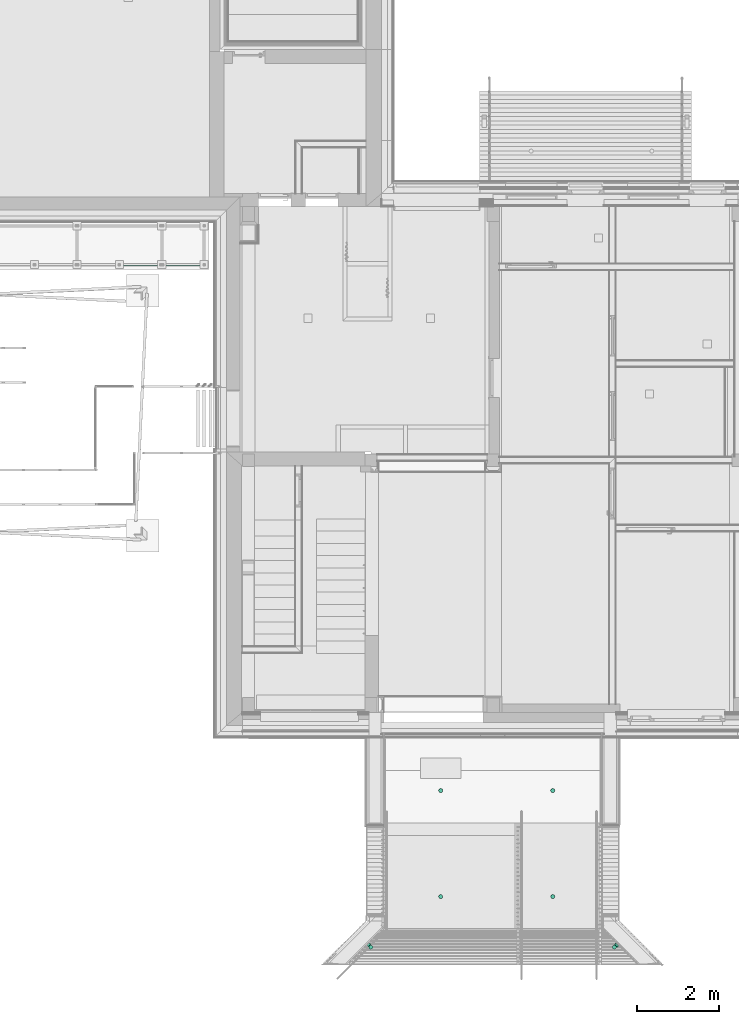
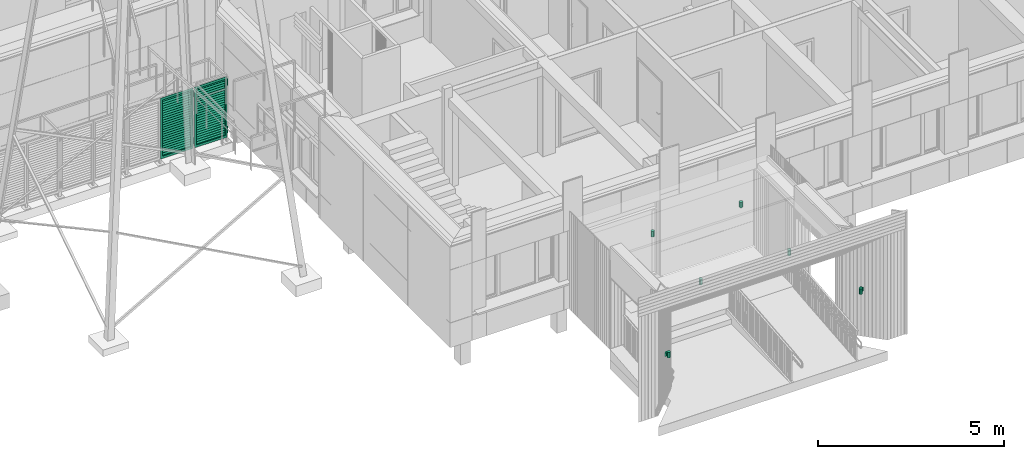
# One storey, part 179 of 418: 8 flow terminals, 2 distribution flow elements.
"""IFC2X3 building model written with IfcOpenShell, lengths in millimetres."""

from ifc_helpers import new_model, entity, si_unit, converted_unit, derived_unit, money_unit, point, direction, frame, frame_2d, origin_with_axes, place, context, subcontext, project, spatial, polyline, circle_curve, parameter, trimmed, segment, composite_curve, outline, extrude, faceted_brep, source, transform, mapped, material, material_list, type_object, element, save


model = new_model("IFC2X3")

# Units and contexts
model_context = context("Model", 3, precision=0.01, world=origin_with_axes(), true_north=direction((0.0, 1.0)))
body_context = subcontext(model_context, "Body", "Model", "MODEL_VIEW")
ifc_project = project(units=[si_unit("LENGTHUNIT", "METRE", prefix="MILLI"), si_unit("AREAUNIT", "SQUARE_METRE"), si_unit("VOLUMEUNIT", "CUBIC_METRE"), converted_unit("PLANEANGLEUNIT", "DEGREE", entity("IfcPlaneAngleMeasure", 0.0174532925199), si_unit("PLANEANGLEUNIT", "RADIAN"), dimensions=[0, 0, 0, 0, 0, 0, 0]), si_unit("SOLIDANGLEUNIT", "STERADIAN"), money_unit("EUR"), converted_unit("TIMEUNIT", "Year", entity("IfcTimeMeasure", 31556926.0), si_unit("TIMEUNIT", "SECOND"), dimensions=[0, 0, 1, 0, 0, 0, 0]), si_unit("MASSUNIT", "GRAM", prefix="KILO"), si_unit("THERMODYNAMICTEMPERATUREUNIT", "DEGREE_CELSIUS"), si_unit("LUMINOUSINTENSITYUNIT", "LUMEN"), si_unit("ENERGYUNIT", "JOULE", prefix="MEGA"), derived_unit("THERMALCONDUCTANCEUNIT", [(si_unit("POWERUNIT", "WATT"), 1), (si_unit("LENGTHUNIT", "METRE"), -1), (si_unit("THERMODYNAMICTEMPERATUREUNIT", "KELVIN"), -1)]), derived_unit("SPECIFICHEATCAPACITYUNIT", [(si_unit("ENERGYUNIT", "JOULE"), 1), (si_unit("MASSUNIT", "GRAM", prefix="KILO"), -1), (si_unit("THERMODYNAMICTEMPERATUREUNIT", "KELVIN"), -1)]), derived_unit("MASSDENSITYUNIT", [(si_unit("MASSUNIT", "GRAM", prefix="KILO"), 1), (si_unit("VOLUMEUNIT", "CUBIC_METRE"), -1)])], contexts=[model_context])

# Site, building, storey
site_placement = place(None, origin_with_axes())
site = spatial("IfcSite", under=ifc_project, at=site_placement, Name="Paldiski mnt 245/1, Tallinn, Harjumaa", CompositionType="COMPLEX")
building_placement = place(site_placement, origin_with_axes())
building = spatial("IfcBuilding", under=site, at=building_placement, Name="RKAS Hoone üldnimetus (kasutust iseloomustav) -> IFC Project Manager -> SOLIBRI", CompositionType="ELEMENT")
storey_placement = place(building_placement, origin_with_axes())
storey = spatial("IfcBuildingStorey", under=building, at=storey_placement, Name="Esimene korrus", CompositionType="ELEMENT", Elevation=0.0)

# Flow terminals
ifc_material_1 = material(Name="RAL7016")
light_fixture_type_1 = type_object("IfcLightFixtureType", Name="RAL7016 180", PredefinedType="NOTDEFINED")
for number, where, z_axis, x_axis in (
    (1, (-42678.1214277, -14430.0842808, 2700.0), (0.0, 0.0, 1.0), (1.0, 0.0, 0.0)),
    (2, (-39930.4999993, -14430.0842808, 2700.0), (0.0, 0.0, 1.0), (1.0, 0.0, 0.0)),
    (3, (-42678.1214277, -17030.0842808, 2700.0), (0.0, 0.0, 1.0), (1.0, 0.0, 0.0)),
    (4, (-39930.4999993, -17030.0842808, 2700.0), (0.0, 0.0, 1.0), (1.0, 0.0, 0.0)),
):
    element("IfcFlowTerminal", number, at=place(storey_placement, frame(where, z_axis=z_axis, x_axis=x_axis)), inside=storey, type_object=light_fixture_type_1, material=ifc_material_1, Name="Välisvalgusti", ObjectType="Light Fixture", context=body_context, shape_type="SweptSolid", body=[
        extrude(outline(composite_curve([segment(trimmed(circle_curve(frame_2d((-50.0, 0.0), x_axis=(1.0, 0.0)), 50.0), [point((0.0, 0.0)), parameter(0.0)], [point((-100.0, 0.0)), parameter(180.0)], True, "CARTESIAN"), True, "CONTINUOUS"), segment(trimmed(circle_curve(frame_2d((-50.0, 0.0), x_axis=(-1.0, 0.0)), 50.0), [point((-100.0, 0.0)), parameter(0.0)], [point((0.0, 0.0)), parameter(180.0)], True, "CARTESIAN"), True, "CONTINUOUS")], self_intersect=False)), frame((0.0, 0.0, -180.0), z_axis=(0.0, 0.0, 1.0), x_axis=(1.0, 0.0, 0.0)), (0.0, 0.0, 1.0), 180.0),
    ])
flow_terminal_1_placement = place(storey_placement, frame((-38435.2093957, -18237.4613392, 1654.07003326), z_axis=(0.0, 0.0, 1.0), x_axis=(1.0, 0.0, 0.0)))
element("IfcFlowTerminal", 5, at=flow_terminal_1_placement, inside=storey, type_object=light_fixture_type_1, material=ifc_material_1, Name="Välisvalgusti", ObjectType="Light Fixture", context=body_context, shape_type="SweptSolid", body=[
    extrude(outline(composite_curve([segment(trimmed(circle_curve(frame_2d((-35.401037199, -35.3095817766), x_axis=(0.708020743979, 0.706191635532)), 50.0), [point((0.0, 0.0)), parameter(0.0)], [point((-70.8020743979, -70.6191635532)), parameter(180.0)], True, "CARTESIAN"), True, "CONTINUOUS"), segment(trimmed(circle_curve(frame_2d((-35.401037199, -35.3095817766), x_axis=(-0.708020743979, -0.706191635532)), 50.0), [point((-70.8020743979, -70.6191635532)), parameter(0.0)], [point((0.0, 0.0)), parameter(180.0)], True, "CARTESIAN"), True, "CONTINUOUS")], self_intersect=False)), frame((0.0, 0.0, -180.0), z_axis=(0.0, 0.0, 1.0), x_axis=(1.0, 0.0, 0.0)), (0.0, 0.0, 1.0), 180.0),
])
flow_terminal_2_placement = place(storey_placement, frame((-44478.3648651, -18237.4613392, 1654.07003326), z_axis=(0.0, 0.0, 1.0), x_axis=(1.0, 0.0, 0.0)))
element("IfcFlowTerminal", 6, at=flow_terminal_2_placement, inside=storey, type_object=light_fixture_type_1, material=ifc_material_1, Name="Välisvalgusti", ObjectType="Light Fixture", context=body_context, shape_type="SweptSolid", body=[
    extrude(outline(composite_curve([segment(trimmed(circle_curve(frame_2d((35.401037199, -35.3095817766), x_axis=(-0.708020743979, 0.706191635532)), 50.0), [point((0.0, 0.0)), parameter(0.0)], [point((70.8020743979, -70.6191635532)), parameter(180.0)], True, "CARTESIAN"), True, "CONTINUOUS"), segment(trimmed(circle_curve(frame_2d((35.401037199, -35.3095817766), x_axis=(0.708020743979, -0.706191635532)), 50.0), [point((70.8020743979, -70.6191635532)), parameter(0.0)], [point((0.0, 0.0)), parameter(180.0)], True, "CARTESIAN"), True, "CONTINUOUS")], self_intersect=False)), frame((0.0, 0.0, -180.0), z_axis=(0.0, 0.0, 1.0), x_axis=(1.0, 0.0, 0.0)), (0.0, 0.0, 1.0), 180.0),
])
light_fixture_type_2 = type_object("IfcLightFixtureType", Name="RAL7016 120", PredefinedType="NOTDEFINED")
flow_terminal_3_placement = place(storey_placement, frame((-38401.3067099, -18267.2036977, 1624.07003326), z_axis=(0.0, 0.0, 1.0), x_axis=(1.0, 0.0, 0.0)))
element("IfcFlowTerminal", 7, at=flow_terminal_3_placement, inside=storey, type_object=light_fixture_type_2, material=ifc_material_1, Name="Välisvalgusti", ObjectType="Light Fixture", context=body_context, shape_type="SweptSolid", body=[
    extrude(outline(polyline([(0.0, 0.0), (35.401037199, 35.3095817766), (-28.1562099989, 99.0314487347), (-63.5572471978, 63.7218669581), (0.0, 0.0)])), frame((0.0, 0.0, -120.0), z_axis=(0.0, 0.0, 1.0), x_axis=(1.0, 0.0, 0.0)), (0.0, 0.0, 1.0), 120.0),
])
flow_terminal_4_placement = place(storey_placement, frame((-44512.267551, -18267.2036977, 1624.07003326), z_axis=(0.0, 0.0, 1.0), x_axis=(1.0, 0.0, 0.0)))
element("IfcFlowTerminal", 8, at=flow_terminal_4_placement, inside=storey, type_object=light_fixture_type_2, material=ifc_material_1, Name="Välisvalgusti", ObjectType="Light Fixture", context=body_context, shape_type="SweptSolid", body=[
    extrude(outline(polyline([(0.0, 0.0), (63.5572471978, 63.7218669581), (28.1562099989, 99.0314487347), (-35.401037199, 35.3095817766), (0.0, 0.0)])), frame((0.0, 0.0, -120.0), z_axis=(0.0, 0.0, 1.0), x_axis=(1.0, 0.0, 0.0)), (0.0, 0.0, 1.0), 120.0),
])

# Distribution flow elements
ifc_material_2 = material(Name="Teras")
ifc_material_3 = material(Name="ET-05_Teras")
ifc_material_list = material_list([ifc_material_2, ifc_material_3])
valve_type = type_object("IfcValveType", Name="Rest_1", PredefinedType="USERDEFINED")
shared_shape = source(origin_with_axes(), body_context, "Body", "Brep", [
    faceted_brep([(-72.0, 25.0, 2000.0), (-72.0, 30.0, 2000.0), (-72.0, 30.0, 1923.07692308), (-72.0, 30.0, 76.9230769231), (-72.0, 30.0, 0.0), (-72.0, 25.0, 0.0), (-72.0, 25.0, 76.9230769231), (-72.0, 25.0, 1923.07692308), (-22.0, 25.0, 2000.0), (-22.0, 30.0, 2000.0), (-22.0, 30.0, 0.0), (-22.0, 25.0, 0.0)], [[[0, 1, 2, 3, 4, 5, 6, 7]], [[8, 9, 1, 0]], [[1, 9, 10, 4, 3, 2]], [[10, 11, 5, 4]], [[5, 11, 8, 0, 7, 6]], [[8, 11, 10, 9]]]),
    faceted_brep([(-972.0, 30.0, 0.0), (-72.0, 30.0, 0.0), (-72.0, 25.0, 0.0), (-972.0, 25.0, 0.0), (-972.0, 30.0, 76.9230769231), (-72.0, 30.0, 76.9230769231), (-72.0, 25.0, 76.9230769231), (-972.0, 25.0, 76.9230769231)], [[[0, 1, 2, 3]], [[4, 5, 1, 0]], [[1, 5, 6, 2]], [[3, 2, 6, 7]], [[0, 3, 7, 4]], [[7, 6, 5, 4]]]),
    faceted_brep([(-972.0, 30.0, 0.0), (-1022.0, 30.0, 0.0), (-1022.0, 30.0, 2000.0), (-972.0, 30.0, 2000.0), (-972.0, 30.0, 1923.07692308), (-972.0, 30.0, 76.9230769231), (-1022.0, 25.0, 0.0), (-972.0, 25.0, 0.0), (-1022.0, 25.0, 2000.0), (-972.0, 25.0, 2000.0), (-972.0, 25.0, 1923.07692308), (-972.0, 25.0, 76.9230769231)], [[[0, 1, 2, 3, 4, 5]], [[6, 1, 0, 7]], [[8, 2, 1, 6]], [[2, 8, 9, 3]], [[7, 0, 5, 4, 3, 9, 10, 11]], [[9, 8, 6, 7, 11, 10]]]),
    faceted_brep([(-977.0, 30.0, 76.9230769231), (-977.0, 80.0, 76.9230769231), (-972.0, 80.0, 76.9230769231), (-972.0, 30.0, 76.9230769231), (-977.0, 30.0, 1923.07692308), (-977.0, 80.0, 1923.07692308), (-972.0, 80.0, 1923.07692308), (-972.0, 30.0, 1923.07692308)], [[[0, 1, 2, 3]], [[4, 5, 1, 0]], [[5, 6, 2, 1]], [[3, 2, 6, 7]], [[4, 0, 3, 7]], [[7, 6, 5, 4]]]),
    faceted_brep([(-67.0, 30.0, 1923.07692308), (-67.0, 80.0, 1923.07692308), (-72.0, 80.0, 1923.07692308), (-72.0, 30.0, 1923.07692308), (-67.0, 30.0, 76.9230769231), (-67.0, 80.0, 76.9230769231), (-72.0, 80.0, 76.9230769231), (-72.0, 30.0, 76.9230769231)], [[[0, 1, 2, 3]], [[4, 5, 1, 0]], [[5, 6, 2, 1]], [[3, 2, 6, 7]], [[4, 0, 3, 7]], [[7, 6, 5, 4]]]),
    faceted_brep([(-972.0, 30.0, 1923.07692308), (-72.0, 30.0, 1923.07692308), (-72.0, 25.0, 1923.07692308), (-972.0, 25.0, 1923.07692308), (-972.0, 30.0, 2000.0), (-72.0, 30.0, 2000.0), (-72.0, 25.0, 2000.0), (-972.0, 25.0, 2000.0)], [[[0, 1, 2, 3]], [[4, 5, 1, 0]], [[1, 5, 6, 2]], [[3, 2, 6, 7]], [[0, 3, 7, 4]], [[7, 6, 5, 4]]]),
    faceted_brep([(-67.0, 30.0, 69.2307692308), (-67.0, 30.0, 76.9230769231), (-977.0, 30.0, 76.9230769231), (-977.0, 30.0, 69.2307692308), (-67.0, 80.0, 69.2307692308), (-67.0, 80.0, 76.9230769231), (-977.0, 80.0, 76.9230769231), (-977.0, 80.0, 69.2307692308)], [[[0, 1, 2, 3]], [[4, 5, 1, 0]], [[1, 5, 6, 2]], [[3, 2, 6, 7]], [[0, 3, 7, 4]], [[7, 6, 5, 4]]]),
    faceted_brep([(-67.0, 30.0, 1923.07692308), (-67.0, 30.0, 1930.76923077), (-977.0, 30.0, 1930.76923077), (-977.0, 30.0, 1923.07692308), (-67.0, 80.0, 1923.07692308), (-67.0, 80.0, 1930.76923077), (-977.0, 80.0, 1930.76923077), (-977.0, 80.0, 1923.07692308)], [[[0, 1, 2, 3]], [[4, 5, 1, 0]], [[1, 5, 6, 2]], [[3, 2, 6, 7]], [[0, 3, 7, 4]], [[7, 6, 5, 4]]]),
    faceted_brep([(-972.0, 77.3650491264, 141.906873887), (-72.0, 77.3650491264, 141.906873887), (-72.0, 39.0628269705, 92.4616731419), (-972.0, 39.0628269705, 92.4616731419), (-972.0, 74.151111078, 147.799523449), (-72.0, 74.151111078, 147.799523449), (-72.0, 35.848888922, 98.3543227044), (-972.0, 35.848888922, 98.3543227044)], [[[0, 1, 2, 3]], [[4, 5, 1, 0]], [[1, 5, 6, 2]], [[3, 2, 6, 7]], [[0, 3, 7, 4]], [[7, 6, 5, 4]]]),
    faceted_brep([(-972.0, 77.3650491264, 218.82995081), (-72.0, 77.3650491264, 218.82995081), (-72.0, 39.0628269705, 169.384750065), (-972.0, 39.0628269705, 169.384750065), (-972.0, 74.151111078, 224.722600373), (-72.0, 74.151111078, 224.722600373), (-72.0, 35.848888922, 175.277399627), (-972.0, 35.848888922, 175.277399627)], [[[0, 1, 2, 3]], [[4, 5, 1, 0]], [[1, 5, 6, 2]], [[3, 2, 6, 7]], [[0, 3, 7, 4]], [[7, 6, 5, 4]]]),
    faceted_brep([(-972.0, 77.3650491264, 295.753027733), (-72.0, 77.3650491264, 295.753027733), (-72.0, 39.0628269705, 246.307826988), (-972.0, 39.0628269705, 246.307826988), (-972.0, 74.151111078, 301.645677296), (-72.0, 74.151111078, 301.645677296), (-72.0, 35.848888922, 252.200476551), (-972.0, 35.848888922, 252.200476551)], [[[0, 1, 2, 3]], [[4, 5, 1, 0]], [[1, 5, 6, 2]], [[3, 2, 6, 7]], [[0, 3, 7, 4]], [[7, 6, 5, 4]]]),
    faceted_brep([(-972.0, 77.3650491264, 372.676104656), (-72.0, 77.3650491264, 372.676104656), (-72.0, 39.0628269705, 323.230903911), (-972.0, 39.0628269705, 323.230903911), (-972.0, 74.151111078, 378.568754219), (-72.0, 74.151111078, 378.568754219), (-72.0, 35.848888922, 329.123553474), (-972.0, 35.848888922, 329.123553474)], [[[0, 1, 2, 3]], [[4, 5, 1, 0]], [[1, 5, 6, 2]], [[3, 2, 6, 7]], [[0, 3, 7, 4]], [[7, 6, 5, 4]]]),
    faceted_brep([(-972.0, 77.3650491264, 449.599181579), (-72.0, 77.3650491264, 449.599181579), (-72.0, 39.0628269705, 400.153980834), (-972.0, 39.0628269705, 400.153980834), (-972.0, 74.151111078, 455.491831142), (-72.0, 74.151111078, 455.491831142), (-72.0, 35.848888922, 406.046630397), (-972.0, 35.848888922, 406.046630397)], [[[0, 1, 2, 3]], [[4, 5, 1, 0]], [[1, 5, 6, 2]], [[3, 2, 6, 7]], [[0, 3, 7, 4]], [[7, 6, 5, 4]]]),
    faceted_brep([(-972.0, 77.3650491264, 526.522258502), (-72.0, 77.3650491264, 526.522258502), (-72.0, 39.0628269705, 477.077057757), (-972.0, 39.0628269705, 477.077057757), (-972.0, 74.151111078, 532.414908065), (-72.0, 74.151111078, 532.414908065), (-72.0, 35.848888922, 482.96970732), (-972.0, 35.848888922, 482.96970732)], [[[0, 1, 2, 3]], [[4, 5, 1, 0]], [[1, 5, 6, 2]], [[3, 2, 6, 7]], [[0, 3, 7, 4]], [[7, 6, 5, 4]]]),
    faceted_brep([(-972.0, 77.3650491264, 603.445335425), (-72.0, 77.3650491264, 603.445335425), (-72.0, 39.0628269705, 554.00013468), (-972.0, 39.0628269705, 554.00013468), (-972.0, 74.151111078, 609.337984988), (-72.0, 74.151111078, 609.337984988), (-72.0, 35.848888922, 559.892784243), (-972.0, 35.848888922, 559.892784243)], [[[0, 1, 2, 3]], [[4, 5, 1, 0]], [[1, 5, 6, 2]], [[3, 2, 6, 7]], [[0, 3, 7, 4]], [[7, 6, 5, 4]]]),
    faceted_brep([(-972.0, 77.3650491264, 680.368412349), (-72.0, 77.3650491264, 680.368412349), (-72.0, 39.0628269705, 630.923211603), (-972.0, 39.0628269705, 630.923211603), (-972.0, 74.151111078, 686.261061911), (-72.0, 74.151111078, 686.261061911), (-72.0, 35.848888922, 636.815861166), (-972.0, 35.848888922, 636.815861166)], [[[0, 1, 2, 3]], [[4, 5, 1, 0]], [[1, 5, 6, 2]], [[3, 2, 6, 7]], [[0, 3, 7, 4]], [[7, 6, 5, 4]]]),
    faceted_brep([(-972.0, 77.3650491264, 757.291489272), (-72.0, 77.3650491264, 757.291489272), (-72.0, 39.0628269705, 707.846288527), (-972.0, 39.0628269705, 707.846288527), (-972.0, 74.151111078, 763.184138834), (-72.0, 74.151111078, 763.184138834), (-72.0, 35.848888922, 713.738938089), (-972.0, 35.848888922, 713.738938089)], [[[0, 1, 2, 3]], [[4, 5, 1, 0]], [[1, 5, 6, 2]], [[3, 2, 6, 7]], [[0, 3, 7, 4]], [[7, 6, 5, 4]]]),
    faceted_brep([(-972.0, 77.3650491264, 834.214566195), (-72.0, 77.3650491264, 834.214566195), (-72.0, 39.0628269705, 784.76936545), (-972.0, 39.0628269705, 784.76936545), (-972.0, 74.151111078, 840.107215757), (-72.0, 74.151111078, 840.107215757), (-72.0, 35.848888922, 790.662015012), (-972.0, 35.848888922, 790.662015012)], [[[0, 1, 2, 3]], [[4, 5, 1, 0]], [[1, 5, 6, 2]], [[3, 2, 6, 7]], [[0, 3, 7, 4]], [[7, 6, 5, 4]]]),
    faceted_brep([(-972.0, 77.3650491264, 911.137643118), (-72.0, 77.3650491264, 911.137643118), (-72.0, 39.0628269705, 861.692442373), (-972.0, 39.0628269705, 861.692442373), (-972.0, 74.151111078, 917.03029268), (-72.0, 74.151111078, 917.03029268), (-72.0, 35.848888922, 867.585091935), (-972.0, 35.848888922, 867.585091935)], [[[0, 1, 2, 3]], [[4, 5, 1, 0]], [[1, 5, 6, 2]], [[3, 2, 6, 7]], [[0, 3, 7, 4]], [[7, 6, 5, 4]]]),
    faceted_brep([(-972.0, 77.3650491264, 988.060720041), (-72.0, 77.3650491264, 988.060720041), (-72.0, 39.0628269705, 938.615519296), (-972.0, 39.0628269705, 938.615519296), (-972.0, 74.151111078, 993.953369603), (-72.0, 74.151111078, 993.953369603), (-72.0, 35.848888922, 944.508168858), (-972.0, 35.848888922, 944.508168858)], [[[0, 1, 2, 3]], [[4, 5, 1, 0]], [[1, 5, 6, 2]], [[3, 2, 6, 7]], [[0, 3, 7, 4]], [[7, 6, 5, 4]]]),
    faceted_brep([(-972.0, 77.3650491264, 1064.98379696), (-72.0, 77.3650491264, 1064.98379696), (-72.0, 39.0628269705, 1015.53859622), (-972.0, 39.0628269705, 1015.53859622), (-972.0, 74.151111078, 1070.87644653), (-72.0, 74.151111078, 1070.87644653), (-72.0, 35.848888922, 1021.43124578), (-972.0, 35.848888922, 1021.43124578)], [[[0, 1, 2, 3]], [[4, 5, 1, 0]], [[1, 5, 6, 2]], [[3, 2, 6, 7]], [[0, 3, 7, 4]], [[7, 6, 5, 4]]]),
    faceted_brep([(-972.0, 77.3650491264, 1141.90687389), (-72.0, 77.3650491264, 1141.90687389), (-72.0, 39.0628269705, 1092.46167314), (-972.0, 39.0628269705, 1092.46167314), (-972.0, 74.151111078, 1147.79952345), (-72.0, 74.151111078, 1147.79952345), (-72.0, 35.848888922, 1098.3543227), (-972.0, 35.848888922, 1098.3543227)], [[[0, 1, 2, 3]], [[4, 5, 1, 0]], [[1, 5, 6, 2]], [[3, 2, 6, 7]], [[0, 3, 7, 4]], [[7, 6, 5, 4]]]),
    faceted_brep([(-972.0, 77.3650491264, 1218.82995081), (-72.0, 77.3650491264, 1218.82995081), (-72.0, 39.0628269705, 1169.38475006), (-972.0, 39.0628269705, 1169.38475006), (-972.0, 74.151111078, 1224.72260037), (-72.0, 74.151111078, 1224.72260037), (-72.0, 35.848888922, 1175.27739963), (-972.0, 35.848888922, 1175.27739963)], [[[0, 1, 2, 3]], [[4, 5, 1, 0]], [[1, 5, 6, 2]], [[3, 2, 6, 7]], [[0, 3, 7, 4]], [[7, 6, 5, 4]]]),
    faceted_brep([(-972.0, 77.3650491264, 1295.75302773), (-72.0, 77.3650491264, 1295.75302773), (-72.0, 39.0628269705, 1246.30782699), (-972.0, 39.0628269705, 1246.30782699), (-972.0, 74.151111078, 1301.6456773), (-72.0, 74.151111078, 1301.6456773), (-72.0, 35.848888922, 1252.20047655), (-972.0, 35.848888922, 1252.20047655)], [[[0, 1, 2, 3]], [[4, 5, 1, 0]], [[1, 5, 6, 2]], [[3, 2, 6, 7]], [[0, 3, 7, 4]], [[7, 6, 5, 4]]]),
    faceted_brep([(-972.0, 77.3650491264, 1372.67610466), (-72.0, 77.3650491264, 1372.67610466), (-72.0, 39.0628269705, 1323.23090391), (-972.0, 39.0628269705, 1323.23090391), (-972.0, 74.151111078, 1378.56875422), (-72.0, 74.151111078, 1378.56875422), (-72.0, 35.848888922, 1329.12355347), (-972.0, 35.848888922, 1329.12355347)], [[[0, 1, 2, 3]], [[4, 5, 1, 0]], [[1, 5, 6, 2]], [[3, 2, 6, 7]], [[0, 3, 7, 4]], [[7, 6, 5, 4]]]),
    faceted_brep([(-972.0, 77.3650491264, 1449.59918158), (-72.0, 77.3650491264, 1449.59918158), (-72.0, 39.0628269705, 1400.15398083), (-972.0, 39.0628269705, 1400.15398083), (-972.0, 74.151111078, 1455.49183114), (-72.0, 74.151111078, 1455.49183114), (-72.0, 35.848888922, 1406.0466304), (-972.0, 35.848888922, 1406.0466304)], [[[0, 1, 2, 3]], [[4, 5, 1, 0]], [[1, 5, 6, 2]], [[3, 2, 6, 7]], [[0, 3, 7, 4]], [[7, 6, 5, 4]]]),
    faceted_brep([(-972.0, 77.3650491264, 1526.5222585), (-72.0, 77.3650491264, 1526.5222585), (-72.0, 39.0628269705, 1477.07705776), (-972.0, 39.0628269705, 1477.07705776), (-972.0, 74.151111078, 1532.41490806), (-72.0, 74.151111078, 1532.41490806), (-72.0, 35.848888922, 1482.96970732), (-972.0, 35.848888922, 1482.96970732)], [[[0, 1, 2, 3]], [[4, 5, 1, 0]], [[1, 5, 6, 2]], [[3, 2, 6, 7]], [[0, 3, 7, 4]], [[7, 6, 5, 4]]]),
    faceted_brep([(-972.0, 77.3650491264, 1603.44533543), (-72.0, 77.3650491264, 1603.44533543), (-72.0, 39.0628269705, 1554.00013468), (-972.0, 39.0628269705, 1554.00013468), (-972.0, 74.151111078, 1609.33798499), (-72.0, 74.151111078, 1609.33798499), (-72.0, 35.848888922, 1559.89278424), (-972.0, 35.848888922, 1559.89278424)], [[[0, 1, 2, 3]], [[4, 5, 1, 0]], [[1, 5, 6, 2]], [[3, 2, 6, 7]], [[0, 3, 7, 4]], [[7, 6, 5, 4]]]),
    faceted_brep([(-972.0, 77.3650491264, 1680.36841235), (-72.0, 77.3650491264, 1680.36841235), (-72.0, 39.0628269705, 1630.9232116), (-972.0, 39.0628269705, 1630.9232116), (-972.0, 74.151111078, 1686.26106191), (-72.0, 74.151111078, 1686.26106191), (-72.0, 35.848888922, 1636.81586117), (-972.0, 35.848888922, 1636.81586117)], [[[0, 1, 2, 3]], [[4, 5, 1, 0]], [[1, 5, 6, 2]], [[3, 2, 6, 7]], [[0, 3, 7, 4]], [[7, 6, 5, 4]]]),
    faceted_brep([(-972.0, 77.3650491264, 1757.29148927), (-72.0, 77.3650491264, 1757.29148927), (-72.0, 39.0628269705, 1707.84628853), (-972.0, 39.0628269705, 1707.84628853), (-972.0, 74.151111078, 1763.18413883), (-72.0, 74.151111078, 1763.18413883), (-72.0, 35.848888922, 1713.73893809), (-972.0, 35.848888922, 1713.73893809)], [[[0, 1, 2, 3]], [[4, 5, 1, 0]], [[1, 5, 6, 2]], [[3, 2, 6, 7]], [[0, 3, 7, 4]], [[7, 6, 5, 4]]]),
    faceted_brep([(-972.0, 77.3650491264, 1834.21456619), (-72.0, 77.3650491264, 1834.21456619), (-72.0, 39.0628269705, 1784.76936545), (-972.0, 39.0628269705, 1784.76936545), (-972.0, 74.151111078, 1840.10721576), (-72.0, 74.151111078, 1840.10721576), (-72.0, 35.848888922, 1790.66201501), (-972.0, 35.848888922, 1790.66201501)], [[[0, 1, 2, 3]], [[4, 5, 1, 0]], [[1, 5, 6, 2]], [[3, 2, 6, 7]], [[0, 3, 7, 4]], [[7, 6, 5, 4]]]),
    faceted_brep([(-972.0, 77.3650491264, 1911.13764312), (-72.0, 77.3650491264, 1911.13764312), (-72.0, 39.0628269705, 1861.69244237), (-972.0, 39.0628269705, 1861.69244237), (-972.0, 74.151111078, 1917.03029268), (-72.0, 74.151111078, 1917.03029268), (-72.0, 35.848888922, 1867.58509194), (-972.0, 35.848888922, 1867.58509194)], [[[0, 1, 2, 3]], [[4, 5, 1, 0]], [[1, 5, 6, 2]], [[3, 2, 6, 7]], [[0, 3, 7, 4]], [[7, 6, 5, 4]]]),
    faceted_brep([(0.0, 12.5, 153.846153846), (0.0, 12.5, 369.230769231), (-3.66116523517, 3.66116523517, 369.230769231), (-3.66116523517, 3.66116523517, 153.846153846), (-3.66116523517, 21.3388347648, 153.846153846), (-3.66116523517, 21.3388347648, 369.230769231), (-12.5, 25.0, 369.230769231), (-21.3388347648, 21.3388347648, 369.230769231), (-25.0, 12.5, 369.230769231), (-21.3388347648, 3.66116523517, 369.230769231), (-12.5, 0.0, 369.230769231), (-12.5, 0.0, 153.846153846), (-21.3388347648, 3.66116523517, 153.846153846), (-25.0, 12.5, 153.846153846), (-21.3388347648, 21.3388347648, 153.846153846), (-12.5, 25.0, 153.846153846)], [[[0, 1, 2, 3]], [[4, 5, 1, 0]], [[1, 5, 6, 7, 8, 9, 10, 2]], [[3, 2, 10, 11]], [[0, 3, 11, 12, 13, 14, 15, 4]], [[15, 6, 5, 4]], [[14, 7, 6, 15]], [[13, 8, 7, 14]], [[12, 9, 8, 13]], [[11, 10, 9, 12]]]),
    faceted_brep([(0.0, 12.5, 1707.69230769), (0.0, 12.5, 1923.07692308), (-3.66116523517, 3.66116523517, 1923.07692308), (-3.66116523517, 3.66116523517, 1707.69230769), (-3.66116523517, 21.3388347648, 1707.69230769), (-3.66116523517, 21.3388347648, 1923.07692308), (-12.5, 25.0, 1923.07692308), (-21.3388347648, 21.3388347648, 1923.07692308), (-25.0, 12.5, 1923.07692308), (-21.3388347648, 3.66116523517, 1923.07692308), (-12.5, 0.0, 1923.07692308), (-12.5, 0.0, 1707.69230769), (-21.3388347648, 3.66116523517, 1707.69230769), (-25.0, 12.5, 1707.69230769), (-21.3388347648, 21.3388347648, 1707.69230769), (-12.5, 25.0, 1707.69230769)], [[[0, 1, 2, 3]], [[4, 5, 1, 0]], [[1, 5, 6, 7, 8, 9, 10, 2]], [[3, 2, 10, 11]], [[0, 3, 11, 12, 13, 14, 15, 4]], [[15, 6, 5, 4]], [[14, 7, 6, 15]], [[13, 8, 7, 14]], [[12, 9, 8, 13]], [[11, 10, 9, 12]]]),
])
for number, where, z_axis, x_axis in (
    (9, (-48517.8040226, -1585.71022117, 0.0), (0.0, 0.0, 1.0), (1.0, 0.0, 0.0)),
    (10, (-49577.3280742, -1585.71022117, 0.0), (0.0, 0.0, 1.0), (1.0, 0.0, 0.0)),
):
    element("IfcDistributionFlowElement", number, at=place(storey_placement, frame(where, z_axis=z_axis, x_axis=x_axis)), inside=storey, type_object=valve_type, material=ifc_material_list, Name="Trapp", ObjectType="Distribution Flow Element", context=body_context, shape_type="MappedRepresentation", body=[
        mapped(shared_shape, transform((0.0, 0.0, 0.0))),
    ])

save(model, "model.ifc")
